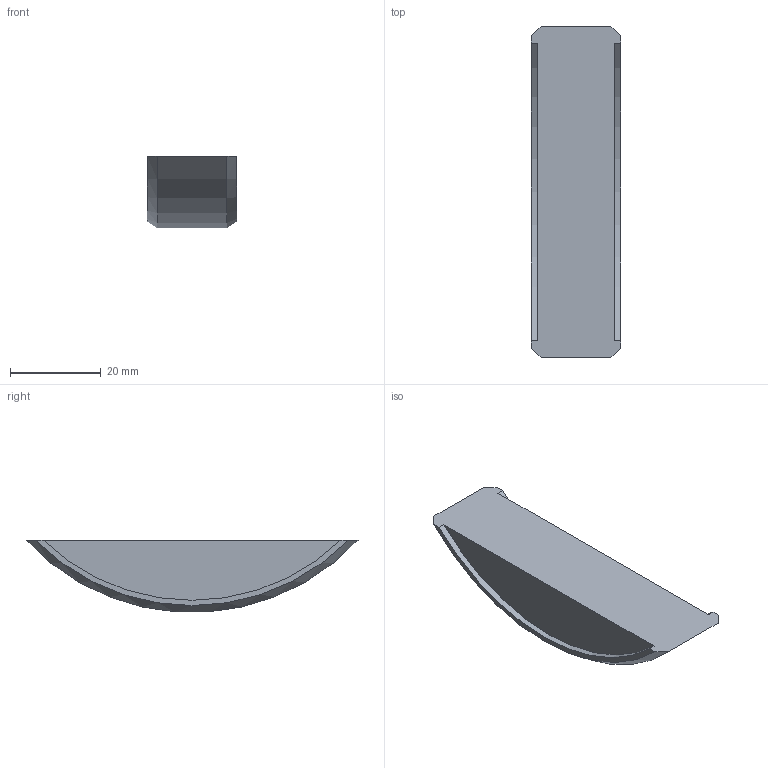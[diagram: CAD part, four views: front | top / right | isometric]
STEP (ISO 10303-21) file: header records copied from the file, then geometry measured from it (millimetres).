
FILE_DESCRIPTION(/* description */ (''),/* implementation_level */ '2;1');
FILE_NAME(/* name */ 'LC P-16x17 Profilnut.stp',/* time_stamp */ '2024-12-19T14:50:34+01:00',/* author */ ('simond'),/* organization */ (''),/* preprocessor_version */ 'ST-DEVELOPER v19.2',/* originating_system */ 'Autodesk Inventor 2023',/* authorisation */ '');
FILE_SCHEMA (('AUTOMOTIVE_DESIGN { 1 0 10303 214 3 1 1 }'));
Length unit declared in the file: millimetre
Products named in the file (1): P-14 Profilnut
Bounding box: 19.8 x 73.32 x 15.86 mm (x, y, z)
Volume: 14102.5 mm3; surface area: 4533.9 mm2
Topology: 1 solids, 1 shells, 10 faces, 24 edges, 16 vertices
Faces by surface type: plane 5, cylinder 3, cone 2
Entity records: 335 total; most frequent: CARTESIAN_POINT 59, DIRECTION 50, ORIENTED_EDGE 48, EDGE_CURVE 24, AXIS2_PLACEMENT_3D 19, VERTEX_POINT 16, LINE 12, VECTOR 12
